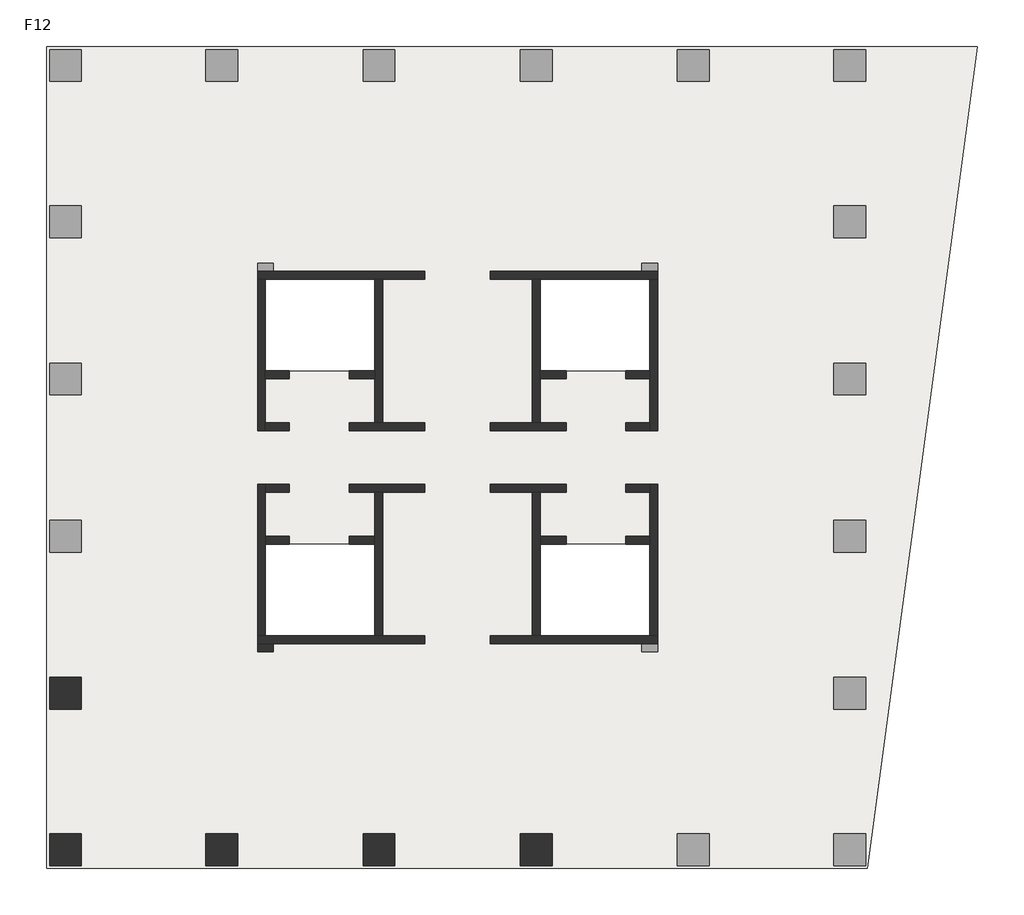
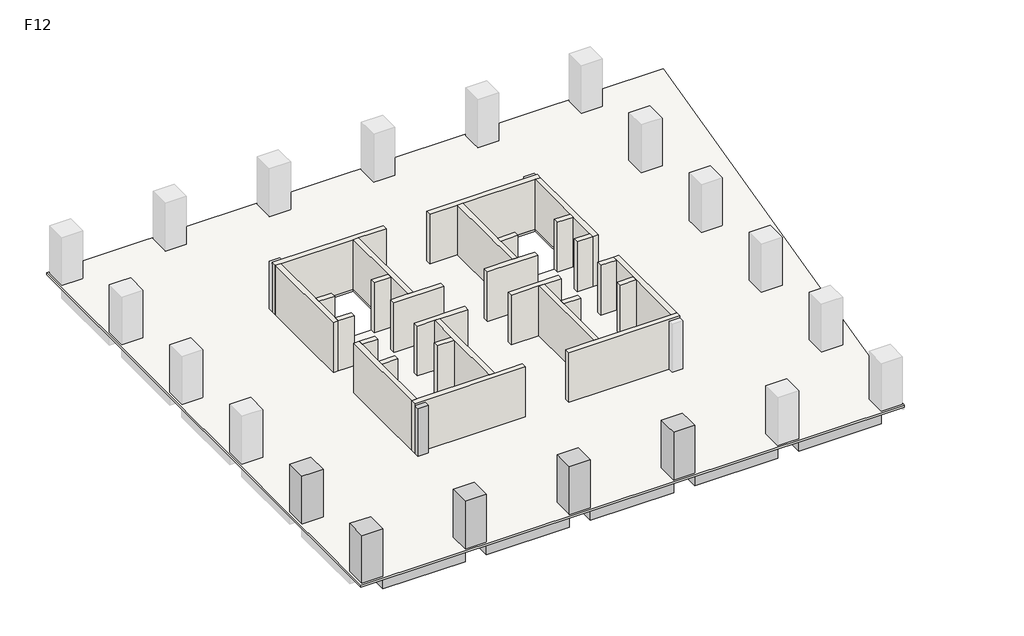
# One storey, part 1 of 2: 28 walls, 6 columns, 5 beams, 1 slab.
"""IFC4 building model written with IfcOpenShell, lengths in millimetres."""

from ifc_helpers import new_model, si_unit, frame, origin, place, context, project, spatial, polyline, outline, extrude, faceted_brep, element, save

model = new_model("IFC4")

# Units and contexts
model_context = context("Model", 3, world=origin())
ifc_project = project(units=[si_unit("LENGTHUNIT", "METRE", prefix="MILLI")], contexts=[model_context])

# Site, building, storey
site = spatial("IfcSite", under=ifc_project)
building = spatial("IfcBuilding", under=site)
storey = spatial("IfcBuildingStorey", under=building, Name="F12", Elevation=48000.0)

# Beams
placement = place(None, origin())
element("IfcBeam", 1, ObjectType="混凝土 - 矩形梁 : KL(5)-800x1000", at=placement, inside=storey, context=model_context, shape_type="SweptSolid", body=[
    extrude(outline(polyline([(-12472.6742169, -13948.9501342), (-12472.6742169, -13148.9501342), (-6222.6742169, -13148.9501342), (-6222.6742169, -13948.9501342), (-12472.6742169, -13948.9501342)])), frame((0.0, 0.0, 47000.0), z_axis=(0.0, 0.0, 1.0), x_axis=(1.0, 0.0, 0.0)), (0.0, 0.0, 1.0), 840.0),
    extrude(outline(polyline([(25327.3257831, -13148.9501342), (25327.3257831, -13948.9501342), (19077.3257831, -13948.9501342), (19077.3257831, -13148.9501342), (25327.3257831, -13148.9501342)])), frame((0.0, 0.0, 47000.0), z_axis=(0.0, 0.0, 1.0), x_axis=(1.0, 0.0, 0.0)), (0.0, 0.0, 1.0), 840.0),
    extrude(outline(polyline([(-4622.6742169, -13948.9501342), (-4622.6742169, -13148.9501342), (1677.3257831, -13148.9501342), (1677.3257831, -13948.9501342), (-4622.6742169, -13948.9501342)])), frame((0.0, 0.0, 47000.0), z_axis=(0.0, 0.0, 1.0), x_axis=(1.0, 0.0, 0.0)), (0.0, 0.0, 1.0), 840.0),
    extrude(outline(polyline([(3277.3257831, -13948.9501342), (3277.3257831, -13148.9501342), (9577.3257831, -13148.9501342), (9577.3257831, -13948.9501342), (3277.3257831, -13948.9501342)])), frame((0.0, 0.0, 47000.0), z_axis=(0.0, 0.0, 1.0), x_axis=(1.0, 0.0, 0.0)), (0.0, 0.0, 1.0), 840.0),
    extrude(outline(polyline([(11177.3257831, -13948.9501342), (11177.3257831, -13148.9501342), (17477.3257831, -13148.9501342), (17477.3257831, -13948.9501342), (11177.3257831, -13948.9501342)])), frame((0.0, 0.0, 47000.0), z_axis=(0.0, 0.0, 1.0), x_axis=(1.0, 0.0, 0.0)), (0.0, 0.0, 1.0), 840.0),
])
element("IfcBeam", 2, ObjectType="混凝土 - 矩形梁 : L1-800x500", at=placement, inside=storey, context=model_context, shape_type="Brep", body=[
    faceted_brep([(-12472.6742169, -5512.1353397, 47500.0), (-3746.9473979, -3341.556529, 47500.0), (-3173.6696907, -3198.9501342, 47500.0), (-3173.6696907, -3198.9501342, 47840.0), (-3746.9473979, -3341.556529, 47840.0), (-12472.6742169, -5512.1353397, 47840.0), (-3622.6742169, -3198.9501342, 47500.0), (-12472.6742169, -4687.7549784, 47500.0), (-3622.6742169, -2486.2624411, 47500.0), (-3622.6742169, -2798.9501342, 47500.0), (-12472.6742169, -4687.7549784, 47840.0), (-3622.6742169, -2486.2624411, 47840.0), (-3622.6742169, -3198.9501342, 47840.0)], [[[0, 1, 2, 3, 4, 5]], [[6, 2, 1, 0, 7, 8, 9]], [[8, 7, 10, 11]], [[2, 6, 12, 3]], [[9, 8, 11, 12, 6]], [[7, 0, 5, 10]], [[5, 4, 3, 12, 11, 10]]]),
])
element("IfcBeam", 3, ObjectType="混凝土 - 矩形梁 : L1-800x500", at=placement, inside=storey, context=model_context, shape_type="SweptSolid", body=[
    extrude(outline(polyline([(-3746.9473979, -3341.556529), (-3173.6696907, -3198.9501342), (-2898.7618154, -3198.9501342), (-4843.6893517, -12348.9501342), (-5661.5624638, -12348.9501342), (-3746.9473979, -3341.556529)])), frame((0.0, 0.0, 47500.0), z_axis=(0.0, 0.0, 1.0), x_axis=(1.0, 0.0, 0.0)), (0.0, 0.0, 1.0), 340.0),
])
element("IfcBeam", 4, ObjectType="混凝土 - 矩形梁 : L1-800x500", at=placement, inside=storey, context=model_context, shape_type="SweptSolid", body=[
    extrude(outline(polyline([(2877.3257831, -12348.9501342), (2077.3257831, -12348.9501342), (2077.3257831, -2798.9501342), (2877.3257831, -2798.9501342), (2877.3257831, -12348.9501342)])), frame((0.0, 0.0, 47500.0), z_axis=(0.0, 0.0, 1.0), x_axis=(1.0, 0.0, 0.0)), (0.0, 0.0, 1.0), 340.0),
])
element("IfcBeam", 5, ObjectType="混凝土 - 矩形梁 : L1-800x500", at=placement, inside=storey, context=model_context, shape_type="SweptSolid", body=[
    extrude(outline(polyline([(10777.3257831, -12348.9501342), (9977.3257831, -12348.9501342), (9977.3257831, -2798.9501342), (10777.3257831, -2798.9501342), (10777.3257831, -12348.9501342)])), frame((0.0, 0.0, 47500.0), z_axis=(0.0, 0.0, 1.0), x_axis=(1.0, 0.0, 0.0)), (0.0, 0.0, 1.0), 340.0),
])

# Columns
element("IfcColumn", 6, ObjectType="混凝土 - 矩形 - 柱 : Z1-1600x1600", at=placement, inside=storey, context=model_context, shape_type="Brep", body=[
    faceted_brep([(-12472.6742169, -4498.9501342, 48000.0), (-12472.6742169, -6098.9501342, 48000.0), (-14072.6742169, -6098.9501342, 48000.0), (-14072.6742169, -4498.9501342, 48000.0), (-12472.6742169, -4498.9501342, 51840.0), (-12472.6742169, -6098.9501342, 51840.0), (-13272.6742169, -6098.9501342, 51840.0), (-14072.6742169, -6098.9501342, 51840.0), (-14072.6742169, -6098.9501342, 51000.0), (-14072.6742169, -4498.9501342, 51840.0), (-14072.6742169, -4498.9501342, 51000.0), (-13272.6742169, -4498.9501342, 51840.0)], [[[0, 1, 2, 3]], [[1, 0, 4, 5]], [[2, 1, 5, 6, 7, 8]], [[3, 2, 8, 7, 9, 10]], [[0, 3, 10, 9, 11, 4]], [[5, 4, 11, 9, 7, 6]]]),
])
element("IfcColumn", 7, ObjectType="混凝土 - 矩形 - 柱 : Z1-1600x1600", at=placement, inside=storey, context=model_context, shape_type="SweptSolid", body=[
    extrude(outline(polyline([(-12472.6742169, -12348.9501342), (-12472.6742169, -13948.9501342), (-14072.6742169, -13948.9501342), (-14072.6742169, -12348.9501342), (-12472.6742169, -12348.9501342)])), frame((0.0, 0.0, 48000.0), z_axis=(0.0, 0.0, 1.0), x_axis=(1.0, 0.0, 0.0)), (0.0, 0.0, 1.0), 3840.0),
])
element("IfcColumn", 8, ObjectType="混凝土 - 矩形 - 柱 : Z1-1600x1600", at=placement, inside=storey, context=model_context, shape_type="Brep", body=[
    faceted_brep([(-4622.6742169, -12348.9501342, 48000.0), (-4622.6742169, -13948.9501342, 48000.0), (-6222.6742169, -13948.9501342, 48000.0), (-6222.6742169, -12348.9501342, 48000.0), (-4622.6742169, -12348.9501342, 51840.0), (-4622.6742169, -13148.9501342, 51840.0), (-4622.6742169, -13948.9501342, 51840.0), (-4622.6742169, -13948.9501342, 51000.0), (-6222.6742169, -13948.9501342, 51840.0), (-6222.6742169, -13948.9501342, 51000.0), (-6222.6742169, -13148.9501342, 51840.0), (-6222.6742169, -12348.9501342, 51840.0)], [[[0, 1, 2, 3]], [[1, 0, 4, 5, 6, 7]], [[2, 1, 7, 6, 8, 9]], [[3, 2, 9, 8, 10, 11]], [[0, 3, 11, 4]], [[6, 5, 4, 11, 10, 8]]]),
])
element("IfcColumn", 9, ObjectType="混凝土 - 矩形 - 柱 : Z1-1600x1600", at=placement, inside=storey, context=model_context, shape_type="Brep", body=[
    faceted_brep([(3277.3257831, -12348.9501342, 48000.0), (3277.3257831, -13948.9501342, 48000.0), (1677.3257831, -13948.9501342, 48000.0), (1677.3257831, -12348.9501342, 48000.0), (3277.3257831, -12348.9501342, 51840.0), (3277.3257831, -13148.9501342, 51840.0), (3277.3257831, -13948.9501342, 51840.0), (3277.3257831, -13948.9501342, 51000.0), (1677.3257831, -13948.9501342, 51840.0), (1677.3257831, -13948.9501342, 51000.0), (1677.3257831, -13148.9501342, 51840.0), (1677.3257831, -12348.9501342, 51840.0)], [[[0, 1, 2, 3]], [[1, 0, 4, 5, 6, 7]], [[2, 1, 7, 6, 8, 9]], [[3, 2, 9, 8, 10, 11]], [[0, 3, 11, 4]], [[6, 5, 4, 11, 10, 8]]]),
])
element("IfcColumn", 10, ObjectType="混凝土 - 矩形 - 柱 : Z1-1600x1600", at=placement, inside=storey, context=model_context, shape_type="Brep", body=[
    faceted_brep([(11177.3257831, -12348.9501342, 48000.0), (11177.3257831, -13948.9501342, 48000.0), (9577.3257831, -13948.9501342, 48000.0), (9577.3257831, -12348.9501342, 48000.0), (11177.3257831, -12348.9501342, 51840.0), (11177.3257831, -13148.9501342, 51840.0), (11177.3257831, -13948.9501342, 51840.0), (11177.3257831, -13948.9501342, 51000.0), (9577.3257831, -13948.9501342, 51840.0), (9577.3257831, -13948.9501342, 51000.0), (9577.3257831, -13148.9501342, 51840.0), (9577.3257831, -12348.9501342, 51840.0)], [[[0, 1, 2, 3]], [[1, 0, 4, 5, 6, 7]], [[2, 1, 7, 6, 8, 9]], [[3, 2, 9, 8, 10, 11]], [[0, 3, 11, 4]], [[6, 5, 4, 11, 10, 8]]]),
])
element("IfcColumn", 11, ObjectType="混凝土 - 矩形 - 柱 : Z2-800x800", at=placement, inside=storey, context=model_context, shape_type="SweptSolid", body=[
    extrude(outline(polyline([(-2822.6742169, -3198.9501342), (-3622.6742169, -3198.9501342), (-3622.6742169, -2798.9501342), (-2822.6742169, -2798.9501342), (-2822.6742169, -3198.9501342)])), frame((0.0, 0.0, 48000.0), z_axis=(0.0, 0.0, 1.0), x_axis=(1.0, 0.0, 0.0)), (0.0, 0.0, 1.0), 3840.0),
])

# Slab
element("IfcSlab", 12, ObjectType="LB-160", at=placement, inside=storey, context=model_context, shape_type="Brep", body=[
    faceted_brep([(32549.4477343, 27201.0498658, 47840.0), (32422.0087099, 26251.0498658, 47840.0), (27029.3257831, -13948.9501342, 47840.0), (27011.0393465, -14085.2672073, 47840.0), (-14222.6742169, -14085.2672073, 47840.0), (-14222.6742169, 27201.0498658, 47840.0), (2277.3257831, 15501.0498658, 47840.0), (-3222.6742169, 15501.0498658, 47840.0), (-3222.6742169, 10901.0498658, 47840.0), (2277.3257831, 10901.0498658, 47840.0), (2277.3257831, 2201.0498658, 47840.0), (-3222.6742169, 2201.0498658, 47840.0), (-3222.6742169, -2398.9501342, 47840.0), (2277.3257831, -2398.9501342, 47840.0), (16077.3257831, 2201.0498658, 47840.0), (10577.3257831, 2201.0498658, 47840.0), (10577.3257831, -2398.9501342, 47840.0), (16077.3257831, -2398.9501342, 47840.0), (16077.3257831, 15501.0498658, 47840.0), (10577.3257831, 15501.0498658, 47840.0), (10577.3257831, 10901.0498658, 47840.0), (16077.3257831, 10901.0498658, 47840.0), (32549.4477343, 27201.0498658, 48000.0), (-14222.6742169, 27201.0498658, 48000.0), (-14222.6742169, -14085.2672073, 48000.0), (27011.0393465, -14085.2672073, 48000.0), (2277.3257831, 15501.0498658, 48000.0), (2277.3257831, 10901.0498658, 48000.0), (-3222.6742169, 10901.0498658, 48000.0), (-3222.6742169, 15501.0498658, 48000.0), (2277.3257831, 2201.0498658, 48000.0), (2277.3257831, -2398.9501342, 48000.0), (-3222.6742169, -2398.9501342, 48000.0), (-3222.6742169, 2201.0498658, 48000.0), (16077.3257831, 2201.0498658, 48000.0), (16077.3257831, -2398.9501342, 48000.0), (10577.3257831, -2398.9501342, 48000.0), (10577.3257831, 2201.0498658, 48000.0), (16077.3257831, 15501.0498658, 48000.0), (16077.3257831, 10901.0498658, 48000.0), (10577.3257831, 10901.0498658, 48000.0), (10577.3257831, 15501.0498658, 48000.0)], [[[0, 1, 2, 3, 4, 5], [6, 7, 8, 9], [10, 11, 12, 13], [14, 15, 16, 17], [18, 19, 20, 21]], [[22, 23, 24, 25], [26, 27, 28, 29], [30, 31, 32, 33], [34, 35, 36, 37], [38, 39, 40, 41]], [[3, 2, 1, 0, 22, 25]], [[4, 3, 25, 24]], [[5, 4, 24, 23]], [[0, 5, 23, 22]], [[7, 6, 26, 29]], [[8, 7, 29, 28]], [[9, 8, 28, 27]], [[6, 9, 27, 26]], [[11, 10, 30, 33]], [[12, 11, 33, 32]], [[13, 12, 32, 31]], [[10, 13, 31, 30]], [[15, 14, 34, 37]], [[16, 15, 37, 36]], [[17, 16, 36, 35]], [[14, 17, 35, 34]], [[19, 18, 38, 41]], [[20, 19, 41, 40]], [[21, 20, 40, 39]], [[18, 21, 39, 38]]]),
])

# Walls
element("IfcWall", 13, ObjectType="剪力墙-400", at=placement, inside=storey, context=model_context, shape_type="Brep", body=[
    faceted_brep([(-3622.6742169, 15501.0498658, 48000.0), (-3222.6742169, 15501.0498658, 48000.0), (2277.3257831, 15501.0498658, 48000.0), (2677.3257831, 15501.0498658, 48000.0), (4777.3257831, 15501.0498658, 48000.0), (4777.3257831, 15501.0498658, 52000.0), (2677.3257831, 15501.0498658, 52000.0), (2277.3257831, 15501.0498658, 52000.0), (-3222.6742169, 15501.0498658, 52000.0), (-3622.6742169, 15501.0498658, 52000.0), (-3622.6742169, 15901.0498658, 48000.0), (-3622.6742169, 15901.0498658, 51840.0), (-3622.6742169, 15901.0498658, 52000.0), (4777.3257831, 15901.0498658, 52000.0), (4777.3257831, 15901.0498658, 48000.0), (-2822.6742169, 15901.0498658, 48000.0)], [[[0, 1, 2, 3, 4, 5, 6, 7, 8, 9]], [[10, 11, 12, 13, 14, 15]], [[4, 3, 2, 1, 0, 10, 15, 14]], [[5, 4, 14, 13]], [[9, 8, 7, 6, 5, 13, 12]], [[0, 9, 12, 11, 10]]]),
])
element("IfcWall", 14, ObjectType="剪力墙-400", at=placement, inside=storey, context=model_context, shape_type="Brep", body=[
    faceted_brep([(2277.3257831, 15501.0498658, 48000.0), (2277.3257831, 10901.0498658, 48000.0), (2277.3257831, 10501.0498658, 48000.0), (2277.3257831, 8301.0498658, 48000.0), (2277.3257831, 8301.0498658, 52000.0), (2277.3257831, 10501.0498658, 52000.0), (2277.3257831, 10901.0498658, 52000.0), (2277.3257831, 15501.0498658, 52000.0), (2677.3257831, 15501.0498658, 48000.0), (2677.3257831, 15501.0498658, 52000.0), (2677.3257831, 8301.0498658, 52000.0), (2677.3257831, 8301.0498658, 48000.0)], [[[0, 1, 2, 3, 4, 5, 6, 7]], [[8, 9, 10, 11]], [[3, 2, 1, 0, 8, 11]], [[7, 6, 5, 4, 10, 9]], [[0, 7, 9, 8]], [[4, 3, 11, 10]]]),
])
element("IfcWall", 15, ObjectType="剪力墙-400", at=placement, inside=storey, context=model_context, shape_type="Brep", body=[
    faceted_brep([(-3622.6742169, 15501.0498658, 48000.0), (-3622.6742169, 7901.0498658, 48000.0), (-3622.6742169, 7901.0498658, 52000.0), (-3622.6742169, 15501.0498658, 52000.0), (-3222.6742169, 15501.0498658, 48000.0), (-3222.6742169, 15501.0498658, 52000.0), (-3222.6742169, 10901.0498658, 52000.0), (-3222.6742169, 10501.0498658, 52000.0), (-3222.6742169, 8301.0498658, 52000.0), (-3222.6742169, 7901.0498658, 52000.0), (-3222.6742169, 7901.0498658, 48000.0), (-3222.6742169, 8301.0498658, 48000.0), (-3222.6742169, 10501.0498658, 48000.0), (-3222.6742169, 10901.0498658, 48000.0)], [[[0, 1, 2, 3]], [[4, 5, 6, 7, 8, 9, 10, 11, 12, 13]], [[1, 0, 4, 13, 12, 11, 10]], [[3, 2, 9, 8, 7, 6, 5]], [[0, 3, 5, 4]], [[2, 1, 10, 9]]]),
])
element("IfcWall", 16, ObjectType="剪力墙-400", at=placement, inside=storey, context=model_context, shape_type="SweptSolid", body=[
    extrude(outline(polyline([(-2022.6742169, 7901.0498658), (-3222.6742169, 7901.0498658), (-3222.6742169, 8301.0498658), (-2022.6742169, 8301.0498658), (-2022.6742169, 7901.0498658)])), frame((0.0, 0.0, 48000.0), z_axis=(0.0, 0.0, 1.0), x_axis=(1.0, 0.0, 0.0)), (0.0, 0.0, 1.0), 4000.0),
])
element("IfcWall", 17, ObjectType="剪力墙-400", at=placement, inside=storey, context=model_context, shape_type="Brep", body=[
    faceted_brep([(977.3257831, 7901.0498658, 48000.0), (4777.3257831, 7901.0498658, 48000.0), (4777.3257831, 7901.0498658, 52000.0), (977.3257831, 7901.0498658, 52000.0), (977.3257831, 8301.0498658, 48000.0), (977.3257831, 8301.0498658, 52000.0), (2277.3257831, 8301.0498658, 52000.0), (2677.3257831, 8301.0498658, 52000.0), (4777.3257831, 8301.0498658, 52000.0), (4777.3257831, 8301.0498658, 48000.0), (2677.3257831, 8301.0498658, 48000.0), (2277.3257831, 8301.0498658, 48000.0)], [[[0, 1, 2, 3]], [[4, 5, 6, 7, 8, 9, 10, 11]], [[1, 0, 4, 11, 10, 9]], [[2, 1, 9, 8]], [[3, 2, 8, 7, 6, 5]], [[0, 3, 5, 4]]]),
])
element("IfcWall", 18, ObjectType="剪力墙-400", at=placement, inside=storey, context=model_context, shape_type="SweptSolid", body=[
    extrude(outline(polyline([(-2022.6742169, 10501.0498658), (-3222.6742169, 10501.0498658), (-3222.6742169, 10901.0498658), (-2022.6742169, 10901.0498658), (-2022.6742169, 10501.0498658)])), frame((0.0, 0.0, 48000.0), z_axis=(0.0, 0.0, 1.0), x_axis=(1.0, 0.0, 0.0)), (0.0, 0.0, 1.0), 4000.0),
])
element("IfcWall", 19, ObjectType="剪力墙-400", at=placement, inside=storey, context=model_context, shape_type="SweptSolid", body=[
    extrude(outline(polyline([(2277.3257831, 10501.0498658), (977.3257831, 10501.0498658), (977.3257831, 10901.0498658), (2277.3257831, 10901.0498658), (2277.3257831, 10501.0498658)])), frame((0.0, 0.0, 48000.0), z_axis=(0.0, 0.0, 1.0), x_axis=(1.0, 0.0, 0.0)), (0.0, 0.0, 1.0), 4000.0),
])
element("IfcWall", 20, ObjectType="剪力墙-400", at=placement, inside=storey, context=model_context, shape_type="Brep", body=[
    faceted_brep([(16477.3257831, 15901.0498658, 48000.0), (15677.3257831, 15901.0498658, 48000.0), (8077.3257831, 15901.0498658, 48000.0), (8077.3257831, 15901.0498658, 52000.0), (16477.3257831, 15901.0498658, 52000.0), (16477.3257831, 15901.0498658, 51840.0), (16477.3257831, 15501.0498658, 48000.0), (16477.3257831, 15501.0498658, 52000.0), (16077.3257831, 15501.0498658, 52000.0), (10577.3257831, 15501.0498658, 52000.0), (10177.3257831, 15501.0498658, 52000.0), (8077.3257831, 15501.0498658, 52000.0), (8077.3257831, 15501.0498658, 48000.0), (10177.3257831, 15501.0498658, 48000.0), (10577.3257831, 15501.0498658, 48000.0), (16077.3257831, 15501.0498658, 48000.0)], [[[0, 1, 2, 3, 4, 5]], [[6, 7, 8, 9, 10, 11, 12, 13, 14, 15]], [[2, 1, 0, 6, 15, 14, 13, 12]], [[3, 2, 12, 11]], [[4, 3, 11, 10, 9, 8, 7]], [[0, 5, 4, 7, 6]]]),
])
element("IfcWall", 21, ObjectType="剪力墙-400", at=placement, inside=storey, context=model_context, shape_type="Brep", body=[
    faceted_brep([(10177.3257831, 15501.0498658, 48000.0), (10177.3257831, 8301.0498658, 48000.0), (10177.3257831, 8301.0498658, 52000.0), (10177.3257831, 15501.0498658, 52000.0), (10577.3257831, 15501.0498658, 48000.0), (10577.3257831, 15501.0498658, 52000.0), (10577.3257831, 10901.0498658, 52000.0), (10577.3257831, 10501.0498658, 52000.0), (10577.3257831, 8301.0498658, 52000.0), (10577.3257831, 8301.0498658, 48000.0), (10577.3257831, 10501.0498658, 48000.0), (10577.3257831, 10901.0498658, 48000.0)], [[[0, 1, 2, 3]], [[4, 5, 6, 7, 8, 9, 10, 11]], [[1, 0, 4, 11, 10, 9]], [[3, 2, 8, 7, 6, 5]], [[0, 3, 5, 4]], [[2, 1, 9, 8]]]),
])
element("IfcWall", 22, ObjectType="剪力墙-400", at=placement, inside=storey, context=model_context, shape_type="Brep", body=[
    faceted_brep([(16077.3257831, 15501.0498658, 48000.0), (16077.3257831, 10901.0498658, 48000.0), (16077.3257831, 10501.0498658, 48000.0), (16077.3257831, 8301.0498658, 48000.0), (16077.3257831, 7901.0498658, 48000.0), (16077.3257831, 7901.0498658, 52000.0), (16077.3257831, 8301.0498658, 52000.0), (16077.3257831, 10501.0498658, 52000.0), (16077.3257831, 10901.0498658, 52000.0), (16077.3257831, 15501.0498658, 52000.0), (16477.3257831, 15501.0498658, 48000.0), (16477.3257831, 15501.0498658, 52000.0), (16477.3257831, 7901.0498658, 52000.0), (16477.3257831, 7901.0498658, 48000.0)], [[[0, 1, 2, 3, 4, 5, 6, 7, 8, 9]], [[10, 11, 12, 13]], [[4, 3, 2, 1, 0, 10, 13]], [[9, 8, 7, 6, 5, 12, 11]], [[0, 9, 11, 10]], [[5, 4, 13, 12]]]),
])
element("IfcWall", 23, ObjectType="剪力墙-400", at=placement, inside=storey, context=model_context, shape_type="SweptSolid", body=[
    extrude(outline(polyline([(14877.3257831, 8301.0498658), (16077.3257831, 8301.0498658), (16077.3257831, 7901.0498658), (14877.3257831, 7901.0498658), (14877.3257831, 8301.0498658)])), frame((0.0, 0.0, 48000.0), z_axis=(0.0, 0.0, 1.0), x_axis=(1.0, 0.0, 0.0)), (0.0, 0.0, 1.0), 4000.0),
])
element("IfcWall", 24, ObjectType="剪力墙-400", at=placement, inside=storey, context=model_context, shape_type="Brep", body=[
    faceted_brep([(11877.3257831, 8301.0498658, 48000.0), (10577.3257831, 8301.0498658, 48000.0), (10177.3257831, 8301.0498658, 48000.0), (8077.3257831, 8301.0498658, 48000.0), (8077.3257831, 8301.0498658, 52000.0), (10177.3257831, 8301.0498658, 52000.0), (10577.3257831, 8301.0498658, 52000.0), (11877.3257831, 8301.0498658, 52000.0), (11877.3257831, 7901.0498658, 48000.0), (11877.3257831, 7901.0498658, 52000.0), (8077.3257831, 7901.0498658, 52000.0), (8077.3257831, 7901.0498658, 48000.0)], [[[0, 1, 2, 3, 4, 5, 6, 7]], [[8, 9, 10, 11]], [[3, 2, 1, 0, 8, 11]], [[4, 3, 11, 10]], [[7, 6, 5, 4, 10, 9]], [[0, 7, 9, 8]]]),
])
element("IfcWall", 25, ObjectType="剪力墙-400", at=placement, inside=storey, context=model_context, shape_type="SweptSolid", body=[
    extrude(outline(polyline([(14877.3257831, 10901.0498658), (16077.3257831, 10901.0498658), (16077.3257831, 10501.0498658), (14877.3257831, 10501.0498658), (14877.3257831, 10901.0498658)])), frame((0.0, 0.0, 48000.0), z_axis=(0.0, 0.0, 1.0), x_axis=(1.0, 0.0, 0.0)), (0.0, 0.0, 1.0), 4000.0),
])
element("IfcWall", 26, ObjectType="剪力墙-400", at=placement, inside=storey, context=model_context, shape_type="SweptSolid", body=[
    extrude(outline(polyline([(10577.3257831, 10901.0498658), (11877.3257831, 10901.0498658), (11877.3257831, 10501.0498658), (10577.3257831, 10501.0498658), (10577.3257831, 10901.0498658)])), frame((0.0, 0.0, 48000.0), z_axis=(0.0, 0.0, 1.0), x_axis=(1.0, 0.0, 0.0)), (0.0, 0.0, 1.0), 4000.0),
])
element("IfcWall", 27, ObjectType="剪力墙-400", at=placement, inside=storey, context=model_context, shape_type="Brep", body=[
    faceted_brep([(-3622.6742169, -2798.9501342, 48000.0), (-2822.6742169, -2798.9501342, 48000.0), (4777.3257831, -2798.9501342, 48000.0), (4777.3257831, -2798.9501342, 52000.0), (-3622.6742169, -2798.9501342, 52000.0), (-3622.6742169, -2798.9501342, 51840.0), (-3622.6742169, -2398.9501342, 48000.0), (-3622.6742169, -2398.9501342, 52000.0), (-3222.6742169, -2398.9501342, 52000.0), (2277.3257831, -2398.9501342, 52000.0), (2677.3257831, -2398.9501342, 52000.0), (4777.3257831, -2398.9501342, 52000.0), (4777.3257831, -2398.9501342, 48000.0), (2677.3257831, -2398.9501342, 48000.0), (2277.3257831, -2398.9501342, 48000.0), (-3222.6742169, -2398.9501342, 48000.0)], [[[0, 1, 2, 3, 4, 5]], [[6, 7, 8, 9, 10, 11, 12, 13, 14, 15]], [[2, 1, 0, 6, 15, 14, 13, 12]], [[3, 2, 12, 11]], [[4, 3, 11, 10, 9, 8, 7]], [[0, 5, 4, 7, 6]]]),
])
element("IfcWall", 28, ObjectType="剪力墙-400", at=placement, inside=storey, context=model_context, shape_type="Brep", body=[
    faceted_brep([(2677.3257831, -2398.9501342, 48000.0), (2677.3257831, 4801.0498658, 48000.0), (2677.3257831, 4801.0498658, 52000.0), (2677.3257831, -2398.9501342, 52000.0), (2277.3257831, -2398.9501342, 48000.0), (2277.3257831, -2398.9501342, 52000.0), (2277.3257831, 2201.0498658, 52000.0), (2277.3257831, 2601.0498658, 52000.0), (2277.3257831, 4801.0498658, 52000.0), (2277.3257831, 4801.0498658, 48000.0), (2277.3257831, 2601.0498658, 48000.0), (2277.3257831, 2201.0498658, 48000.0)], [[[0, 1, 2, 3]], [[4, 5, 6, 7, 8, 9, 10, 11]], [[1, 0, 4, 11, 10, 9]], [[3, 2, 8, 7, 6, 5]], [[0, 3, 5, 4]], [[2, 1, 9, 8]]]),
])
element("IfcWall", 29, ObjectType="剪力墙-400", at=placement, inside=storey, context=model_context, shape_type="Brep", body=[
    faceted_brep([(-3222.6742169, -2398.9501342, 48000.0), (-3222.6742169, 2201.0498658, 48000.0), (-3222.6742169, 2601.0498658, 48000.0), (-3222.6742169, 4801.0498658, 48000.0), (-3222.6742169, 5201.0498658, 48000.0), (-3222.6742169, 5201.0498658, 52000.0), (-3222.6742169, 4801.0498658, 52000.0), (-3222.6742169, 2601.0498658, 52000.0), (-3222.6742169, 2201.0498658, 52000.0), (-3222.6742169, -2398.9501342, 52000.0), (-3622.6742169, -2398.9501342, 48000.0), (-3622.6742169, -2398.9501342, 52000.0), (-3622.6742169, 5201.0498658, 52000.0), (-3622.6742169, 5201.0498658, 48000.0)], [[[0, 1, 2, 3, 4, 5, 6, 7, 8, 9]], [[10, 11, 12, 13]], [[4, 3, 2, 1, 0, 10, 13]], [[9, 8, 7, 6, 5, 12, 11]], [[0, 9, 11, 10]], [[5, 4, 13, 12]]]),
])
element("IfcWall", 30, ObjectType="剪力墙-400", at=placement, inside=storey, context=model_context, shape_type="SweptSolid", body=[
    extrude(outline(polyline([(-2022.6742169, 4801.0498658), (-3222.6742169, 4801.0498658), (-3222.6742169, 5201.0498658), (-2022.6742169, 5201.0498658), (-2022.6742169, 4801.0498658)])), frame((0.0, 0.0, 48000.0), z_axis=(0.0, 0.0, 1.0), x_axis=(1.0, 0.0, 0.0)), (0.0, 0.0, 1.0), 4000.0),
])
element("IfcWall", 31, ObjectType="剪力墙-400", at=placement, inside=storey, context=model_context, shape_type="Brep", body=[
    faceted_brep([(977.3257831, 4801.0498658, 48000.0), (2277.3257831, 4801.0498658, 48000.0), (2677.3257831, 4801.0498658, 48000.0), (4777.3257831, 4801.0498658, 48000.0), (4777.3257831, 4801.0498658, 52000.0), (2677.3257831, 4801.0498658, 52000.0), (2277.3257831, 4801.0498658, 52000.0), (977.3257831, 4801.0498658, 52000.0), (977.3257831, 5201.0498658, 48000.0), (977.3257831, 5201.0498658, 52000.0), (4777.3257831, 5201.0498658, 52000.0), (4777.3257831, 5201.0498658, 48000.0)], [[[0, 1, 2, 3, 4, 5, 6, 7]], [[8, 9, 10, 11]], [[3, 2, 1, 0, 8, 11]], [[4, 3, 11, 10]], [[7, 6, 5, 4, 10, 9]], [[0, 7, 9, 8]]]),
])
element("IfcWall", 32, ObjectType="剪力墙-400", at=placement, inside=storey, context=model_context, shape_type="SweptSolid", body=[
    extrude(outline(polyline([(-2022.6742169, 2201.0498658), (-3222.6742169, 2201.0498658), (-3222.6742169, 2601.0498658), (-2022.6742169, 2601.0498658), (-2022.6742169, 2201.0498658)])), frame((0.0, 0.0, 48000.0), z_axis=(0.0, 0.0, 1.0), x_axis=(1.0, 0.0, 0.0)), (0.0, 0.0, 1.0), 4000.0),
])
element("IfcWall", 33, ObjectType="剪力墙-400", at=placement, inside=storey, context=model_context, shape_type="SweptSolid", body=[
    extrude(outline(polyline([(2277.3257831, 2201.0498658), (977.3257831, 2201.0498658), (977.3257831, 2601.0498658), (2277.3257831, 2601.0498658), (2277.3257831, 2201.0498658)])), frame((0.0, 0.0, 48000.0), z_axis=(0.0, 0.0, 1.0), x_axis=(1.0, 0.0, 0.0)), (0.0, 0.0, 1.0), 4000.0),
])
element("IfcWall", 34, ObjectType="剪力墙-400", at=placement, inside=storey, context=model_context, shape_type="Brep", body=[
    faceted_brep([(16477.3257831, -2398.9501342, 48000.0), (16077.3257831, -2398.9501342, 48000.0), (10577.3257831, -2398.9501342, 48000.0), (10177.3257831, -2398.9501342, 48000.0), (8077.3257831, -2398.9501342, 48000.0), (8077.3257831, -2398.9501342, 52000.0), (10177.3257831, -2398.9501342, 52000.0), (10577.3257831, -2398.9501342, 52000.0), (16077.3257831, -2398.9501342, 52000.0), (16477.3257831, -2398.9501342, 52000.0), (16477.3257831, -2798.9501342, 48000.0), (16477.3257831, -2798.9501342, 51840.0), (16477.3257831, -2798.9501342, 52000.0), (8077.3257831, -2798.9501342, 52000.0), (8077.3257831, -2798.9501342, 48000.0), (15677.3257831, -2798.9501342, 48000.0)], [[[0, 1, 2, 3, 4, 5, 6, 7, 8, 9]], [[10, 11, 12, 13, 14, 15]], [[4, 3, 2, 1, 0, 10, 15, 14]], [[5, 4, 14, 13]], [[9, 8, 7, 6, 5, 13, 12]], [[0, 9, 12, 11, 10]]]),
])
element("IfcWall", 35, ObjectType="剪力墙-400", at=placement, inside=storey, context=model_context, shape_type="Brep", body=[
    faceted_brep([(10577.3257831, -2398.9501342, 48000.0), (10577.3257831, 2201.0498658, 48000.0), (10577.3257831, 2601.0498658, 48000.0), (10577.3257831, 4801.0498658, 48000.0), (10577.3257831, 4801.0498658, 52000.0), (10577.3257831, 2601.0498658, 52000.0), (10577.3257831, 2201.0498658, 52000.0), (10577.3257831, -2398.9501342, 52000.0), (10177.3257831, -2398.9501342, 48000.0), (10177.3257831, -2398.9501342, 52000.0), (10177.3257831, 4801.0498658, 52000.0), (10177.3257831, 4801.0498658, 48000.0)], [[[0, 1, 2, 3, 4, 5, 6, 7]], [[8, 9, 10, 11]], [[3, 2, 1, 0, 8, 11]], [[7, 6, 5, 4, 10, 9]], [[0, 7, 9, 8]], [[4, 3, 11, 10]]]),
])
element("IfcWall", 36, ObjectType="剪力墙-400", at=placement, inside=storey, context=model_context, shape_type="Brep", body=[
    faceted_brep([(16477.3257831, -2398.9501342, 48000.0), (16477.3257831, 5201.0498658, 48000.0), (16477.3257831, 5201.0498658, 52000.0), (16477.3257831, -2398.9501342, 52000.0), (16077.3257831, -2398.9501342, 48000.0), (16077.3257831, -2398.9501342, 52000.0), (16077.3257831, 2201.0498658, 52000.0), (16077.3257831, 2601.0498658, 52000.0), (16077.3257831, 4801.0498658, 52000.0), (16077.3257831, 5201.0498658, 52000.0), (16077.3257831, 5201.0498658, 48000.0), (16077.3257831, 4801.0498658, 48000.0), (16077.3257831, 2601.0498658, 48000.0), (16077.3257831, 2201.0498658, 48000.0)], [[[0, 1, 2, 3]], [[4, 5, 6, 7, 8, 9, 10, 11, 12, 13]], [[1, 0, 4, 13, 12, 11, 10]], [[3, 2, 9, 8, 7, 6, 5]], [[0, 3, 5, 4]], [[2, 1, 10, 9]]]),
])
element("IfcWall", 37, ObjectType="剪力墙-400", at=placement, inside=storey, context=model_context, shape_type="SweptSolid", body=[
    extrude(outline(polyline([(14877.3257831, 5201.0498658), (16077.3257831, 5201.0498658), (16077.3257831, 4801.0498658), (14877.3257831, 4801.0498658), (14877.3257831, 5201.0498658)])), frame((0.0, 0.0, 48000.0), z_axis=(0.0, 0.0, 1.0), x_axis=(1.0, 0.0, 0.0)), (0.0, 0.0, 1.0), 4000.0),
])
element("IfcWall", 38, ObjectType="剪力墙-400", at=placement, inside=storey, context=model_context, shape_type="Brep", body=[
    faceted_brep([(11877.3257831, 5201.0498658, 48000.0), (8077.3257831, 5201.0498658, 48000.0), (8077.3257831, 5201.0498658, 52000.0), (11877.3257831, 5201.0498658, 52000.0), (11877.3257831, 4801.0498658, 48000.0), (11877.3257831, 4801.0498658, 52000.0), (10577.3257831, 4801.0498658, 52000.0), (10177.3257831, 4801.0498658, 52000.0), (8077.3257831, 4801.0498658, 52000.0), (8077.3257831, 4801.0498658, 48000.0), (10177.3257831, 4801.0498658, 48000.0), (10577.3257831, 4801.0498658, 48000.0)], [[[0, 1, 2, 3]], [[4, 5, 6, 7, 8, 9, 10, 11]], [[1, 0, 4, 11, 10, 9]], [[2, 1, 9, 8]], [[3, 2, 8, 7, 6, 5]], [[0, 3, 5, 4]]]),
])
element("IfcWall", 39, ObjectType="剪力墙-400", at=placement, inside=storey, context=model_context, shape_type="SweptSolid", body=[
    extrude(outline(polyline([(14877.3257831, 2601.0498658), (16077.3257831, 2601.0498658), (16077.3257831, 2201.0498658), (14877.3257831, 2201.0498658), (14877.3257831, 2601.0498658)])), frame((0.0, 0.0, 48000.0), z_axis=(0.0, 0.0, 1.0), x_axis=(1.0, 0.0, 0.0)), (0.0, 0.0, 1.0), 4000.0),
])
element("IfcWall", 40, ObjectType="剪力墙-400", at=placement, inside=storey, context=model_context, shape_type="SweptSolid", body=[
    extrude(outline(polyline([(10577.3257831, 2601.0498658), (11877.3257831, 2601.0498658), (11877.3257831, 2201.0498658), (10577.3257831, 2201.0498658), (10577.3257831, 2601.0498658)])), frame((0.0, 0.0, 48000.0), z_axis=(0.0, 0.0, 1.0), x_axis=(1.0, 0.0, 0.0)), (0.0, 0.0, 1.0), 4000.0),
])

save(model, "model.ifc")
